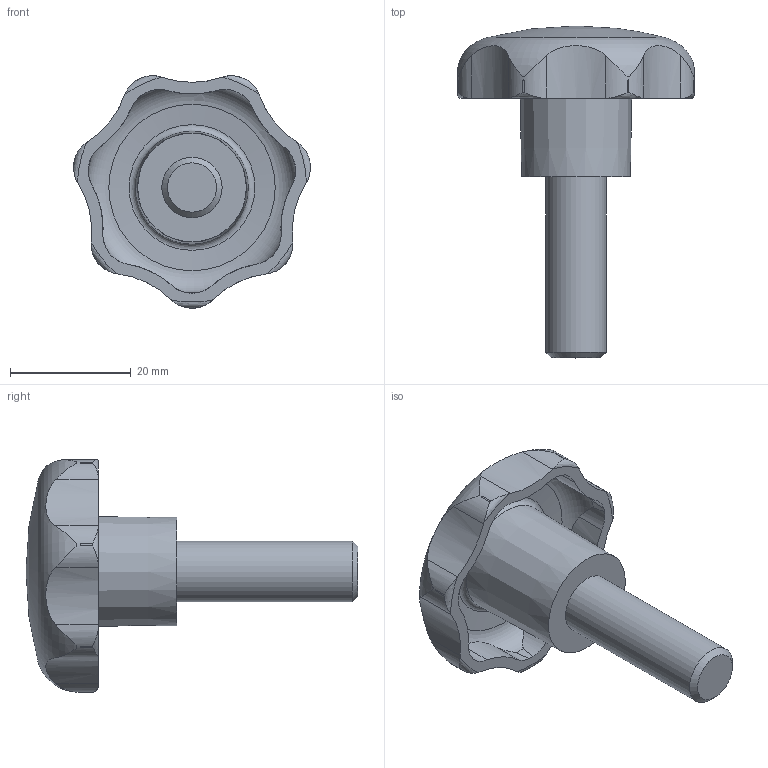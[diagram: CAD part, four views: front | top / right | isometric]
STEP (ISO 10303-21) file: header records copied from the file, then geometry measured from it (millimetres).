
FILE_DESCRIPTION( ( 'STEP AP203' ), '1' );
FILE_NAME( 'C:/Temp/Ganter_Step_05_03_2020/data/2_2/gn_6336_4/gn_6336_4_st/Star knob GN 6336.4-ST-40-M10-30.stp', '2020-03-05T12:07:33', ( 'License CC BY-ND 4.0' ), ( 'CADENAS' ), ' ', 'PARTsolutions', ' ' );
FILE_SCHEMA( ( 'CONFIG_CONTROL_DESIGN' ) );
Length unit declared in the file: millimetre
Products named in the file (1): _Star knob GN 6336.4-ST-40-M10-30
Bounding box: 39.25 x 55 x 38.51 mm (x, y, z)
Volume: 13153.6 mm3; surface area: 5819.7 mm2
Topology: 1 solids, 1 shells, 74 faces, 208 edges, 137 vertices
Faces by surface type: cylinder 43, torus 17, cone 10, plane 3, sphere 1
Full cylindrical faces by diameter (mm): 10 x1
Entity records: 3288 total; most frequent: CARTESIAN_POINT 1437, ORIENTED_EDGE 394, DIRECTION 362, EDGE_CURVE 197, AXIS2_PLACEMENT_3D 160, VERTEX_POINT 135, CIRCLE 85, EDGE_LOOP 83
